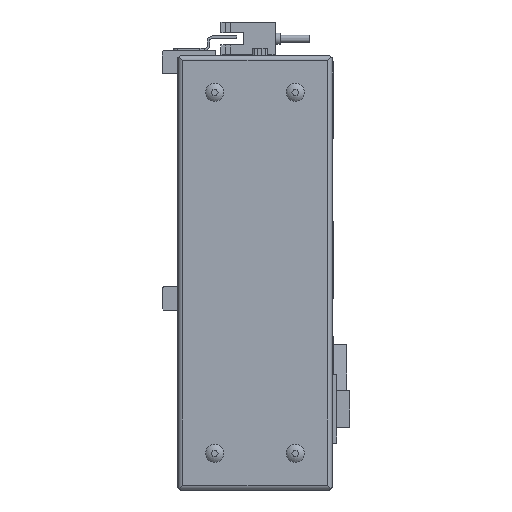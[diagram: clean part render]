
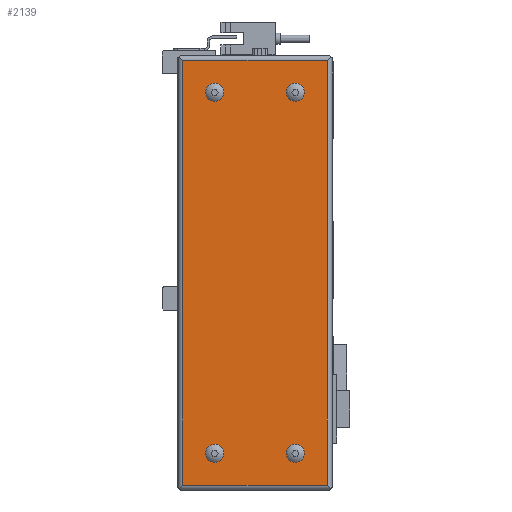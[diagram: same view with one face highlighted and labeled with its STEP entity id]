
A CAD part, left-side view. The second image highlights one B-rep face of the part: STEP entity #2139.
In plain terms, the highlighted planar face has unit normal (-1, 0, 0).
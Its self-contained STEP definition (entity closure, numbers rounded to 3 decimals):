
#2139 = ADVANCED_FACE( '', ( #4485, #4486, #4487, #4488, #4489 ), #4490, .F. );
#4485 = FACE_BOUND( '', #6952, .T. );
#4486 = FACE_BOUND( '', #6953, .T. );
#4487 = FACE_BOUND( '', #6954, .T. );
#4488 = FACE_BOUND( '', #6955, .T. );
#4489 = FACE_OUTER_BOUND( '', #6956, .T. );
#4490 = PLANE( '', #6957 );
#6952 = EDGE_LOOP( '', ( #12874 ) );
#6953 = EDGE_LOOP( '', ( #12875 ) );
#6954 = EDGE_LOOP( '', ( #12876 ) );
#6955 = EDGE_LOOP( '', ( #12877 ) );
#6956 = EDGE_LOOP( '', ( #12878, #12879, #12880, #12881 ) );
#6957 = AXIS2_PLACEMENT_3D( '', #12882, #12883, #12884 );
#12874 = ORIENTED_EDGE( '', *, *, #15329, .F. );
#12875 = ORIENTED_EDGE( '', *, *, #14830, .F. );
#12876 = ORIENTED_EDGE( '', *, *, #14517, .F. );
#12877 = ORIENTED_EDGE( '', *, *, #15988, .F. );
#12878 = ORIENTED_EDGE( '', *, *, #16500, .F. );
#12879 = ORIENTED_EDGE( '', *, *, #15268, .F. );
#12880 = ORIENTED_EDGE( '', *, *, #16501, .T. );
#12881 = ORIENTED_EDGE( '', *, *, #14749, .T. );
#12882 = CARTESIAN_POINT( '', ( -52., 0., 0. ) );
#12883 = DIRECTION( '', ( 1., 0., 0. ) );
#12884 = DIRECTION( '', ( 0., 0., -1. ) );
#14517 = EDGE_CURVE( '', #17450, #17450, #17451, .F. );
#14749 = EDGE_CURVE( '', #17848, #17846, #17849, .T. );
#14830 = EDGE_CURVE( '', #17979, #17979, #17980, .F. );
#15268 = EDGE_CURVE( '', #18691, #18694, #18695, .T. );
#15329 = EDGE_CURVE( '', #18794, #18794, #18795, .F. );
#15988 = EDGE_CURVE( '', #19737, #19737, #19738, .F. );
#16500 = EDGE_CURVE( '', #18694, #17846, #20372, .T. );
#16501 = EDGE_CURVE( '', #18691, #17848, #20373, .T. );
#17450 = VERTEX_POINT( '', #21675 );
#17451 = CIRCLE( '', #21676, 3.7 );
#17846 = VERTEX_POINT( '', #22228 );
#17848 = VERTEX_POINT( '', #22230 );
#17849 = LINE( '', #22231, #22232 );
#17979 = VERTEX_POINT( '', #22432 );
#17980 = CIRCLE( '', #22433, 3.7 );
#18691 = VERTEX_POINT( '', #23493 );
#18694 = VERTEX_POINT( '', #23496 );
#18695 = LINE( '', #23497, #23498 );
#18794 = VERTEX_POINT( '', #23684 );
#18795 = CIRCLE( '', #23685, 3.7 );
#19737 = VERTEX_POINT( '', #25029 );
#19738 = CIRCLE( '', #25030, 3.7 );
#20372 = LINE( '', #26099, #26100 );
#20373 = LINE( '', #26101, #26102 );
#21675 = CARTESIAN_POINT( '', ( -52., 15.5, -115.2 ) );
#21676 = AXIS2_PLACEMENT_3D( '', #26902, #26903, #26904 );
#22228 = CARTESIAN_POINT( '', ( -52., 2.5, -124.5 ) );
#22230 = CARTESIAN_POINT( '', ( -52., 61.5, -124.5 ) );
#22231 = CARTESIAN_POINT( '', ( -52., 177.5, -124.5 ) );
#22232 = VECTOR( '', #27204, 1000. );
#22432 = CARTESIAN_POINT( '', ( -52., 15.5, 32.3 ) );
#22433 = AXIS2_PLACEMENT_3D( '', #27288, #27289, #27290 );
#23493 = CARTESIAN_POINT( '', ( -52., 61.5, 49. ) );
#23496 = CARTESIAN_POINT( '', ( -52., 2.5, 49. ) );
#23497 = CARTESIAN_POINT( '', ( -52., 177.5, 49. ) );
#23498 = VECTOR( '', #27819, 1000. );
#23684 = CARTESIAN_POINT( '', ( -52., 48.5, -115.2 ) );
#23685 = AXIS2_PLACEMENT_3D( '', #27902, #27903, #27904 );
#25029 = CARTESIAN_POINT( '', ( -52., 48.5, 32.3 ) );
#25030 = AXIS2_PLACEMENT_3D( '', #28604, #28605, #28606 );
#26099 = CARTESIAN_POINT( '', ( -52., 2.5, 177.5 ) );
#26100 = VECTOR( '', #29076, 1000. );
#26101 = CARTESIAN_POINT( '', ( -52., 61.5, 177.5 ) );
#26102 = VECTOR( '', #29077, 1000. );
#26902 = CARTESIAN_POINT( '', ( -52., 15.5, -111.5 ) );
#26903 = DIRECTION( '', ( 1., 0., 0. ) );
#26904 = DIRECTION( '', ( 0., 0., -1. ) );
#27204 = DIRECTION( '', ( 0., -1., 0. ) );
#27288 = CARTESIAN_POINT( '', ( -52., 15.5, 36. ) );
#27289 = DIRECTION( '', ( 1., 0., 0. ) );
#27290 = DIRECTION( '', ( 0., 0., -1. ) );
#27819 = DIRECTION( '', ( 0., -1., 0. ) );
#27902 = CARTESIAN_POINT( '', ( -52., 48.5, -111.5 ) );
#27903 = DIRECTION( '', ( 1., 0., 0. ) );
#27904 = DIRECTION( '', ( 0., 0., -1. ) );
#28604 = CARTESIAN_POINT( '', ( -52., 48.5, 36. ) );
#28605 = DIRECTION( '', ( 1., 0., 0. ) );
#28606 = DIRECTION( '', ( 0., 0., -1. ) );
#29076 = DIRECTION( '', ( 0., 0., -1. ) );
#29077 = DIRECTION( '', ( 0., 0., -1. ) );
